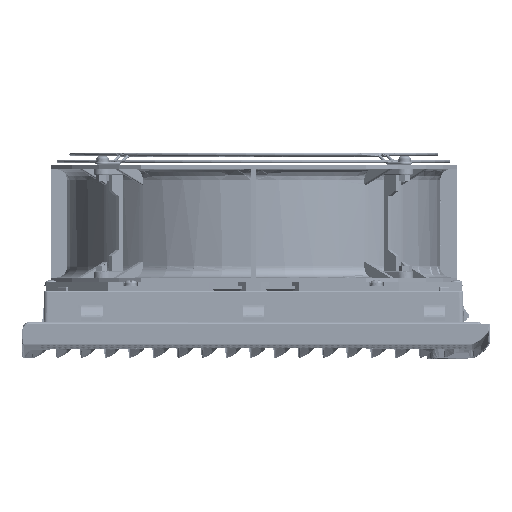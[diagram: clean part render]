
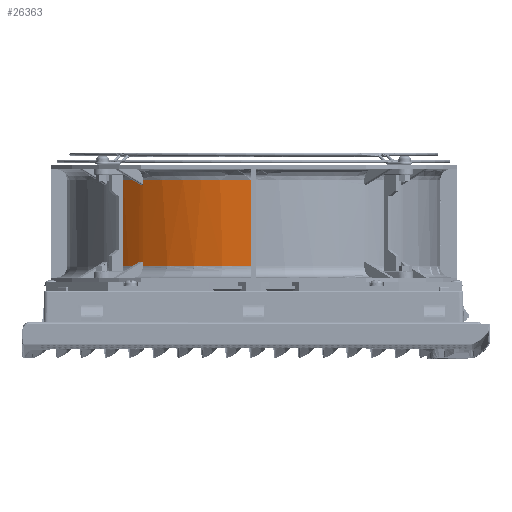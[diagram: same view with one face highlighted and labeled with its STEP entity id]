
A CAD part, left-side view. The second image highlights one B-rep face of the part: STEP entity #26363.
In plain terms, the highlighted cylindrical face has radius 128.5 mm (diameter 257 mm), a partial arc.
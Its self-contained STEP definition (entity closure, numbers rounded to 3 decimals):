
#5912=ELLIPSE('',#128845,140.18,128.5);
#5913=ELLIPSE('',#128847,140.18,128.5);
#10695=CYLINDRICAL_SURFACE('',#128848,128.5);
#14656=LINE('',#337127,#19559);
#14672=LINE('',#337455,#19575);
#14673=LINE('',#337459,#19576);
#14674=LINE('',#337463,#19577);
#14675=LINE('',#337474,#19578);
#14676=LINE('',#337512,#19579);
#19559=VECTOR('',#149889,1.);
#19575=VECTOR('',#149919,1.);
#19576=VECTOR('',#149922,1.);
#19577=VECTOR('',#149925,1.);
#19578=VECTOR('',#149926,1.);
#19579=VECTOR('',#149929,1.);
#26363=ADVANCED_FACE('',(#33816),#10695,.T.);
#33816=FACE_OUTER_BOUND('',#41724,.T.);
#41724=EDGE_LOOP('',(#73381,#73382,#73383,#73384,#73385,#73386,#73387,#73388,
#73389,#73390,#73391,#73392,#73393,#73394));
#73381=ORIENTED_EDGE('',*,*,#105505,.T.);
#73382=ORIENTED_EDGE('',*,*,#105506,.F.);
#73383=ORIENTED_EDGE('',*,*,#105507,.F.);
#73384=ORIENTED_EDGE('',*,*,#105508,.T.);
#73385=ORIENTED_EDGE('',*,*,#105509,.T.);
#73386=ORIENTED_EDGE('',*,*,#105510,.F.);
#73387=ORIENTED_EDGE('',*,*,#105511,.T.);
#73388=ORIENTED_EDGE('',*,*,#105512,.F.);
#73389=ORIENTED_EDGE('',*,*,#105513,.T.);
#73390=ORIENTED_EDGE('',*,*,#105514,.T.);
#73391=ORIENTED_EDGE('',*,*,#105515,.T.);
#73392=ORIENTED_EDGE('',*,*,#105516,.T.);
#73393=ORIENTED_EDGE('',*,*,#105517,.T.);
#73394=ORIENTED_EDGE('',*,*,#105463,.T.);
#88546=VERTEX_POINT('',#337126);
#88547=VERTEX_POINT('',#337128);
#88579=VERTEX_POINT('',#337454);
#88580=VERTEX_POINT('',#337456);
#88581=VERTEX_POINT('',#337458);
#88582=VERTEX_POINT('',#337460);
#88583=VERTEX_POINT('',#337462);
#88584=VERTEX_POINT('',#337464);
#88585=VERTEX_POINT('',#337473);
#88586=VERTEX_POINT('',#337475);
#88587=VERTEX_POINT('',#337492);
#88588=VERTEX_POINT('',#337494);
#88589=VERTEX_POINT('',#337511);
#88590=VERTEX_POINT('',#337513);
#105463=EDGE_CURVE('',#88547,#88546,#14656,.T.);
#105505=EDGE_CURVE('',#88546,#88579,#120074,.T.);
#105506=EDGE_CURVE('',#88580,#88579,#14672,.T.);
#105507=EDGE_CURVE('',#88581,#88580,#5912,.T.);
#105508=EDGE_CURVE('',#88581,#88582,#14673,.T.);
#105509=EDGE_CURVE('',#88582,#88583,#120075,.T.);
#105510=EDGE_CURVE('',#88584,#88583,#14674,.T.);
#105511=EDGE_CURVE('',#88584,#88585,#116186,.T.);
#105512=EDGE_CURVE('',#88586,#88585,#14675,.T.);
#105513=EDGE_CURVE('',#88586,#88587,#116187,.T.);
#105514=EDGE_CURVE('',#88587,#88588,#5913,.T.);
#105515=EDGE_CURVE('',#88588,#88589,#116188,.T.);
#105516=EDGE_CURVE('',#88589,#88590,#14676,.T.);
#105517=EDGE_CURVE('',#88590,#88547,#116189,.T.);
#116186=B_SPLINE_CURVE_WITH_KNOTS('',3,(#337465,#337466,#337467,#337468,
#337469,#337470,#337471,#337472),.UNSPECIFIED.,.F.,.F.,(4,2,2,4),(0.,0.5,
0.75,1.),.UNSPECIFIED.);
#116187=B_SPLINE_CURVE_WITH_KNOTS('',3,(#337476,#337477,#337478,#337479,
#337480,#337481,#337482,#337483,#337484,#337485,#337486,#337487,#337488,
#337489,#337490,#337491),.UNSPECIFIED.,.F.,.F.,(4,3,3,3,3,4),(0.,0.232,
0.465,0.68,0.877,1.),.UNSPECIFIED.);
#116188=B_SPLINE_CURVE_WITH_KNOTS('',3,(#337495,#337496,#337497,#337498,
#337499,#337500,#337501,#337502,#337503,#337504,#337505,#337506,#337507,
#337508,#337509,#337510),.UNSPECIFIED.,.F.,.F.,(4,3,3,3,3,4),(0.,0.2,
0.4,0.613,0.843,1.),.UNSPECIFIED.);
#116189=B_SPLINE_CURVE_WITH_KNOTS('',3,(#337514,#337515,#337516,#337517,
#337518,#337519),.UNSPECIFIED.,.F.,.F.,(4,2,4),(0.,0.5,1.),.UNSPECIFIED.);
#120074=CIRCLE('',#128844,128.5);
#120075=CIRCLE('',#128846,128.5);
#128844=AXIS2_PLACEMENT_3D('',#337453,#149917,#149918);
#128845=AXIS2_PLACEMENT_3D('',#337457,#149920,#149921);
#128846=AXIS2_PLACEMENT_3D('',#337461,#149923,#149924);
#128847=AXIS2_PLACEMENT_3D('',#337493,#149927,#149928);
#128848=AXIS2_PLACEMENT_3D('',#337520,#149930,#149931);
#149889=DIRECTION('',(0.,0.,1.));
#149917=DIRECTION('',(0.,0.,-1.));
#149918=DIRECTION('',(0.,1.,0.));
#149919=DIRECTION('',(0.,0.,1.));
#149920=DIRECTION('',(-0.283,-0.283,0.917));
#149921=DIRECTION('',(0.648,0.648,0.4));
#149922=DIRECTION('',(0.,0.,1.));
#149923=DIRECTION('',(0.,0.,-1.));
#149924=DIRECTION('',(0.,1.,0.));
#149925=DIRECTION('',(0.,0.,1.));
#149926=DIRECTION('',(0.,0.,-1.));
#149927=DIRECTION('',(0.283,0.283,0.917));
#149928=DIRECTION('',(0.648,0.648,-0.4));
#149929=DIRECTION('',(0.,0.,-1.));
#149930=DIRECTION('',(0.,0.,1.));
#149931=DIRECTION('',(0.,-1.,0.));
#337126=CARTESIAN_POINT('',(91.644,221.875,-28.601));
#337127=CARTESIAN_POINT('',(91.644,221.875,-98.601));
#337128=CARTESIAN_POINT('',(91.644,221.875,-87.601));
#337453=CARTESIAN_POINT('',(-0.273,132.078,-28.601));
#337454=CARTESIAN_POINT('',(101.196,210.921,-28.601));
#337455=CARTESIAN_POINT('',(101.196,210.921,-98.601));
#337456=CARTESIAN_POINT('',(101.196,210.921,-31.422));
#337457=CARTESIAN_POINT('',(-0.273,132.078,-87.005));
#337458=CARTESIAN_POINT('',(103.026,208.508,-31.601));
#337459=CARTESIAN_POINT('',(103.026,208.508,-98.601));
#337460=CARTESIAN_POINT('',(103.026,208.508,-28.601));
#337461=CARTESIAN_POINT('',(-0.273,132.078,-28.601));
#337462=CARTESIAN_POINT('',(128.218,133.578,-28.601));
#337463=CARTESIAN_POINT('',(128.218,133.578,-98.601));
#337464=CARTESIAN_POINT('',(128.218,133.578,-87.601));
#337465=CARTESIAN_POINT('',(128.218,133.578,-87.601));
#337466=CARTESIAN_POINT('',(128.06,147.102,-87.601));
#337467=CARTESIAN_POINT('',(125.823,160.249,-87.601));
#337468=CARTESIAN_POINT('',(119.382,179.41,-87.601));
#337469=CARTESIAN_POINT('',(116.731,185.62,-87.601));
#337470=CARTESIAN_POINT('',(110.557,197.45,-87.601));
#337471=CARTESIAN_POINT('',(107.021,203.109,-87.601));
#337472=CARTESIAN_POINT('',(103.026,208.508,-87.601));
#337473=CARTESIAN_POINT('',(103.026,208.508,-87.601));
#337474=CARTESIAN_POINT('',(103.026,208.508,-17.601));
#337475=CARTESIAN_POINT('',(103.026,208.508,-85.365));
#337476=CARTESIAN_POINT('',(103.026,208.508,-85.365));
#337477=CARTESIAN_POINT('',(103.026,208.508,-85.278));
#337478=CARTESIAN_POINT('',(103.018,208.519,-85.189));
#337479=CARTESIAN_POINT('',(103.001,208.542,-85.107));
#337480=CARTESIAN_POINT('',(102.984,208.565,-85.024));
#337481=CARTESIAN_POINT('',(102.958,208.6,-84.945));
#337482=CARTESIAN_POINT('',(102.924,208.645,-84.878));
#337483=CARTESIAN_POINT('',(102.894,208.687,-84.817));
#337484=CARTESIAN_POINT('',(102.855,208.738,-84.763));
#337485=CARTESIAN_POINT('',(102.813,208.795,-84.724));
#337486=CARTESIAN_POINT('',(102.774,208.847,-84.688));
#337487=CARTESIAN_POINT('',(102.731,208.905,-84.664));
#337488=CARTESIAN_POINT('',(102.688,208.963,-84.653));
#337489=CARTESIAN_POINT('',(102.66,209.,-84.645));
#337490=CARTESIAN_POINT('',(102.632,209.038,-84.643));
#337491=CARTESIAN_POINT('',(102.604,209.075,-84.646));
#337492=CARTESIAN_POINT('',(102.604,209.075,-84.646));
#337493=CARTESIAN_POINT('',(-0.273,132.078,-29.198));
#337494=CARTESIAN_POINT('',(101.628,210.362,-84.742));
#337495=CARTESIAN_POINT('',(101.628,210.362,-84.742));
#337496=CARTESIAN_POINT('',(101.58,210.424,-84.746));
#337497=CARTESIAN_POINT('',(101.533,210.486,-84.765));
#337498=CARTESIAN_POINT('',(101.489,210.543,-84.796));
#337499=CARTESIAN_POINT('',(101.445,210.6,-84.826));
#337500=CARTESIAN_POINT('',(101.404,210.653,-84.869));
#337501=CARTESIAN_POINT('',(101.368,210.699,-84.92));
#337502=CARTESIAN_POINT('',(101.33,210.749,-84.975));
#337503=CARTESIAN_POINT('',(101.297,210.792,-85.04));
#337504=CARTESIAN_POINT('',(101.27,210.825,-85.111));
#337505=CARTESIAN_POINT('',(101.242,210.862,-85.188));
#337506=CARTESIAN_POINT('',(101.221,210.889,-85.274));
#337507=CARTESIAN_POINT('',(101.209,210.905,-85.361));
#337508=CARTESIAN_POINT('',(101.201,210.915,-85.421));
#337509=CARTESIAN_POINT('',(101.196,210.921,-85.483));
#337510=CARTESIAN_POINT('',(101.196,210.921,-85.545));
#337511=CARTESIAN_POINT('',(101.196,210.921,-85.545));
#337512=CARTESIAN_POINT('',(101.196,210.921,-17.601));
#337513=CARTESIAN_POINT('',(101.196,210.921,-87.601));
#337514=CARTESIAN_POINT('',(101.196,210.921,-87.601));
#337515=CARTESIAN_POINT('',(99.707,212.837,-87.601));
#337516=CARTESIAN_POINT('',(98.155,214.722,-87.601));
#337517=CARTESIAN_POINT('',(94.967,218.376,-87.601));
#337518=CARTESIAN_POINT('',(93.328,220.151,-87.601));
#337519=CARTESIAN_POINT('',(91.644,221.875,-87.601));
#337520=CARTESIAN_POINT('',(-0.273,132.078,-98.601));
